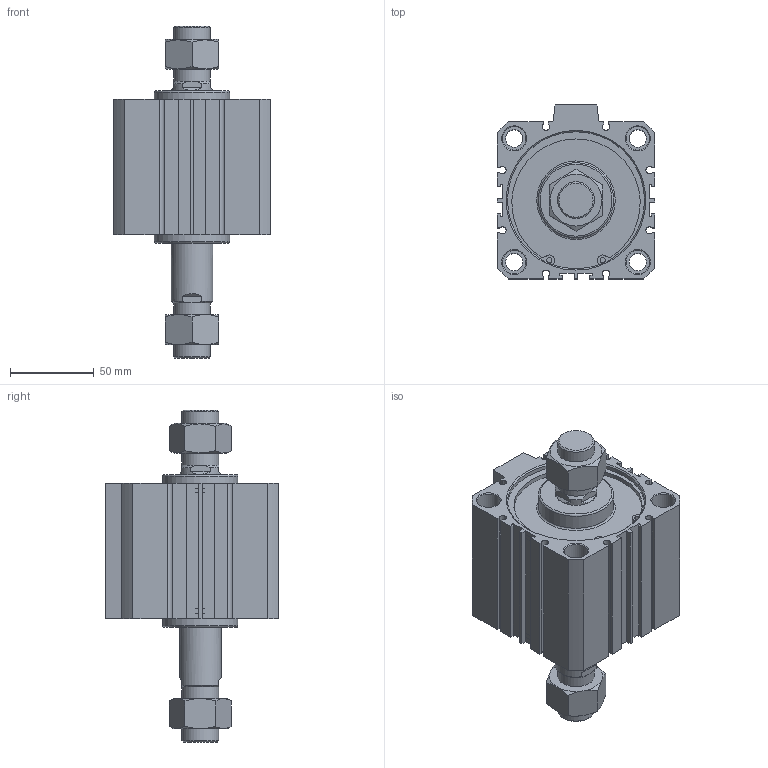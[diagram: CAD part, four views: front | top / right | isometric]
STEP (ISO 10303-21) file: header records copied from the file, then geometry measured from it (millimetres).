
FILE_DESCRIPTION((''),'2;1');
FILE_NAME('I:\3D電子目錄\氣缸\JDD\JDD-BS\JDD80-BS\JDD80x30-BS.stp','2007-02-28T08:40:15',('662F206'),(''),'Autodesk Inventor 10','Autodesk Inventor 10','');
FILE_SCHEMA(('AUTOMOTIVE_DESIGN { 1 0 10303 214 1 1 1 1 }'));
Length unit declared in the file: millimetre
Products named in the file (3): JDD80-BS; R 形環 82
Assembly tree (3 placements, depth 2):
  JDD80-BS
    JDD80-BS
    R 形環 82  x2
Bounding box: 94 x 104 x 198.7 mm (x, y, z)
Volume: 711311.4 mm3; surface area: 97814.3 mm2
Topology: 3 solids, 3 shells, 226 faces, 548 edges, 354 vertices
Faces by surface type: plane 130, cylinder 56, cone 36, bspline 2, torus 2
Full cylindrical faces by diameter (mm): 3.1 x4, 3.5 x2, 10.4 x4, 14 x8, 22 x4, 25 x2, 45 x2, 82 x4, 85.5 x2
Entity records: 6033 total; most frequent: CARTESIAN_POINT 1188, DIRECTION 994, ORIENTED_EDGE 916, EDGE_CURVE 458, AXIS2_PLACEMENT_3D 366, VERTEX_POINT 326, EDGE_LOOP 304, VECTOR 262
